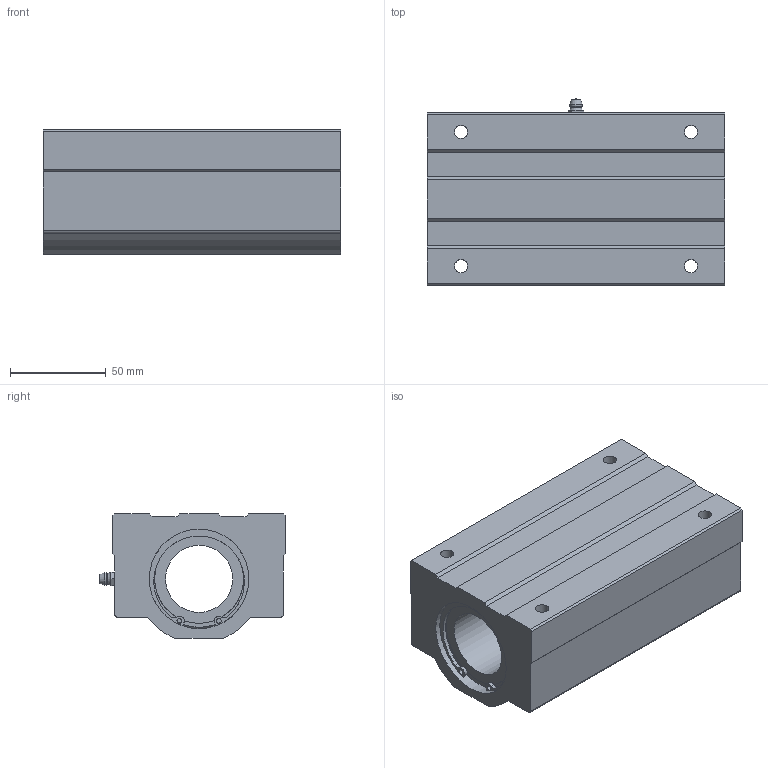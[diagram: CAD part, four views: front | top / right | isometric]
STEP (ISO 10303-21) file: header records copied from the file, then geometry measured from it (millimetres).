
FILE_DESCRIPTION((''),'2;1');
FILE_NAME('D:\製品 (図面)\カタログ用3D\リニアベアリング関連\STEP形式\LHW-B\LHW35B.stp','2010-05-21T10:51:47',('Tsuchiya'),(''),'Autodesk Inventor 10','Autodesk Inventor 10','');
FILE_SCHEMA(('AUTOMOTIVE_DESIGN { 1 0 10303 214 1 1 1 1 }'));
Length unit declared in the file: millimetre
Products named in the file (1): LHW35B
Bounding box: 155 x 97.4 x 65 mm (x, y, z)
Volume: 638737.9 mm3; surface area: 86434.9 mm2
Topology: 1 solids, 7 shells, 126 faces, 333 edges, 209 vertices
Faces by surface type: plane 50, bspline 40, cylinder 25, cone 7, torus 2, sphere 2
Full cylindrical faces by diameter (mm): 2.5 x2, 35 x2, 46.4 x2, 49 x2, 52 x8
Entity records: 3965 total; most frequent: CARTESIAN_POINT 1101, DIRECTION 590, ORIENTED_EDGE 544, EDGE_CURVE 272, AXIS2_PLACEMENT_3D 243, EDGE_LOOP 196, VERTEX_POINT 188, CIRCLE 156
